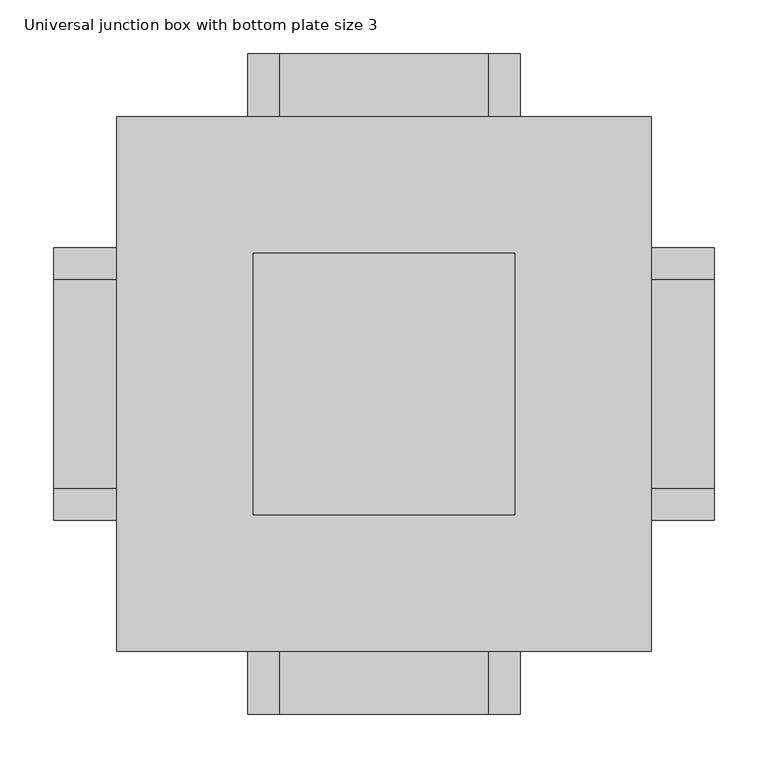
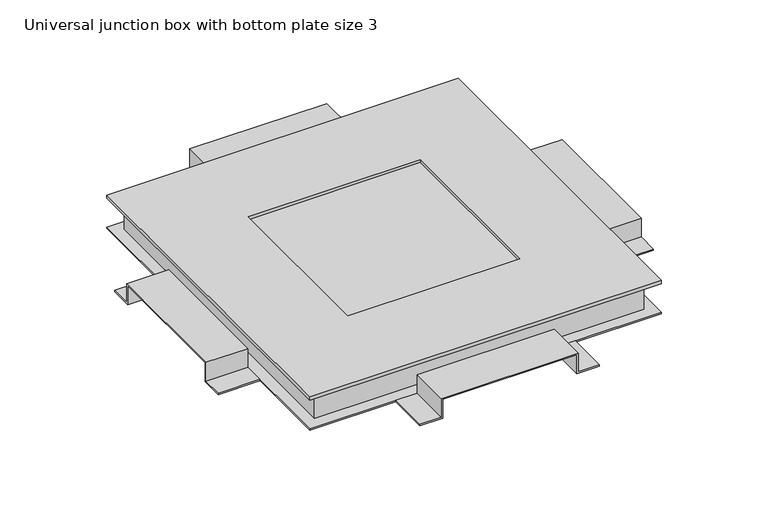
"""IFC4 building model written with IfcOpenShell, lengths in millimetres: cable carrier fitting geometry, Electrical-Installations_Hager_Universal-Junction-Box-With-Bottom-Plate-Size-3 : Universal junction box with bottom plate size 3."""

from ifc_helpers import new_model, si_unit, frame, origin, place, context, project, spatial, polyline, outline, extrude, faceted_brep, source, transform, mapped, element, save


def universal_junction_box_with_bottom_plate_size_3_bfdb4a76(model_context):
    return source(origin(), model_context, "Body", "SolidModel", [
        extrude(outline(polyline([(-14.0, -127.0), (-14.0, -95.0), (14.0, -95.0), (14.0, 95.0), (-14.0, 95.0), (-14.0, 127.0), (-12.0, 127.0), (-12.0, 97.0), (16.0, 97.0), (16.0, -97.0), (-12.0, -97.0), (-12.0, -127.0), (-14.0, -127.0)])), frame((0.0, 249.0, 0.0), z_axis=(0.0, 1.0, 0.0), x_axis=(0.0, 0.0, 1.0)), (0.0, 0.0, 1.0), 59.0),
        extrude(outline(polyline([(-127.0, -14.0), (-127.0, -12.0), (-97.0, -12.0), (-97.0, 16.0), (97.0, 16.0), (97.0, -12.0), (127.0, -12.0), (127.0, -14.0), (95.0, -14.0), (95.0, 14.0), (-95.0, 14.0), (-95.0, -14.0), (-127.0, -14.0)])), frame((-308.0, 0.0, 0.0), z_axis=(1.0, 0.0, 0.0), x_axis=(0.0, 1.0, 0.0)), (0.0, 0.0, 1.0), 59.0),
        extrude(outline(polyline([(-14.0, -127.0), (-14.0, -95.0), (14.0, -95.0), (14.0, 95.0), (-14.0, 95.0), (-14.0, 127.0), (-12.0, 127.0), (-12.0, 97.0), (16.0, 97.0), (16.0, -97.0), (-12.0, -97.0), (-12.0, -127.0), (-14.0, -127.0)])), frame((0.0, -308.0, 0.0), z_axis=(0.0, 1.0, 0.0), x_axis=(0.0, 0.0, 1.0)), (0.0, 0.0, 1.0), 59.0),
        extrude(outline(polyline([(-127.0, -14.0), (-127.0, -12.0), (-97.0, -12.0), (-97.0, 16.0), (97.0, 16.0), (97.0, -12.0), (127.0, -12.0), (127.0, -14.0), (95.0, -14.0), (95.0, 14.0), (-95.0, 14.0), (-95.0, -14.0), (-127.0, -14.0)])), frame((249.0, 0.0, 0.0), z_axis=(1.0, 0.0, 0.0), x_axis=(0.0, 1.0, 0.0)), (0.0, 0.0, 1.0), 59.0),
        faceted_brep([(-249.0, -249.0, 36.0), (249.0, -249.0, 36.0), (249.0, 249.0, 36.0), (-249.0, 249.0, 36.0), (-122.0, 122.0, 36.0), (122.0, 122.0, 36.0), (122.0, -122.0, 36.0), (-122.0, -122.0, 36.0), (-249.0, -249.0, 31.0), (-249.0, 249.0, 31.0), (249.0, 249.0, 31.0), (249.0, -249.0, 31.0), (227.0, 227.0, 31.0), (-227.0, 227.0, 31.0), (-227.0, -227.0, 31.0), (227.0, -227.0, 31.0), (-122.0, 122.0, 31.7820613), (122.0, 122.0, 31.7820613), (122.0, -122.0, 31.7820613), (-122.0, -122.0, 31.7820613), (227.0, 227.0, 31.7820613), (227.0, -227.0, 31.7820613), (-227.0, -227.0, 31.7820613), (-227.0, 227.0, 31.7820613)], [[[0, 1, 2, 3], [4, 5, 6, 7]], [[8, 9, 10, 11], [12, 13, 14, 15]], [[1, 0, 8, 11]], [[2, 1, 11, 10]], [[3, 2, 10, 9]], [[0, 3, 9, 8]], [[5, 4, 16, 17]], [[6, 5, 17, 18]], [[7, 6, 18, 19]], [[4, 7, 19, 16]], [[20, 21, 22, 23], [17, 16, 19, 18]], [[20, 23, 13, 12]], [[23, 22, 14, 13]], [[22, 21, 15, 14]], [[21, 20, 12, 15]]]),
        extrude(outline(polyline([(249.0, 249.0), (249.0, -249.0), (-249.0, -249.0), (-249.0, 249.0), (249.0, 249.0)])), frame((0.0, 0.0, -14.0), z_axis=(0.0, 0.0, 1.0), x_axis=(1.0, 0.0, 0.0)), (0.0, 0.0, 1.0), 2.0),
        faceted_brep([(-233.0, 233.0, 31.0), (-233.0, -233.0, 31.0), (233.0, -233.0, 31.0), (233.0, 233.0, 31.0), (-227.0, 227.0, 31.0), (227.0, 227.0, 31.0), (227.0, -227.0, 31.0), (-227.0, -227.0, 31.0), (-233.0, 233.0, -14.0), (233.0, 233.0, -14.0), (233.0, -233.0, -14.0), (-233.0, -233.0, -14.0), (227.0, 227.0, -6.1362798), (-227.0, 227.0, -6.1362798), (-227.0, -227.0, -6.1362798), (227.0, -227.0, -6.1362798)], [[[0, 1, 2, 3], [4, 5, 6, 7]], [[8, 9, 10, 11]], [[1, 0, 8, 11]], [[2, 1, 11, 10]], [[3, 2, 10, 9]], [[0, 3, 9, 8]], [[12, 13, 14, 15]], [[13, 12, 5, 4]], [[14, 13, 4, 7]], [[15, 14, 7, 6]], [[12, 15, 6, 5]]]),
    ])


if __name__ == "__main__":
    model = new_model("IFC4")
    model_context = context("Model", 3, world=origin())
    ifc_project = project(units=[si_unit("LENGTHUNIT", "METRE", prefix="MILLI")], contexts=[model_context])
    site = spatial("IfcSite", under=ifc_project)
    building = spatial("IfcBuilding", under=site)
    placement = place(None, origin())
    universal_junction_box_with_bottom_plate_size_3_shape = universal_junction_box_with_bottom_plate_size_3_bfdb4a76(model_context)
    element("IfcCableCarrierFitting", 1, ObjectType="Electrical-Installations_Hager_Universal-Junction-Box-With-Bottom-Plate-Size-3 : Universal junction box with bottom plate size 3", at=placement, inside=building, context=model_context, shape_type="MappedRepresentation", body=[
        mapped(universal_junction_box_with_bottom_plate_size_3_shape, transform((0.0, 0.0, 0.0), x_axis=(1.0, 0.0, 0.0), y_axis=(0.0, 1.0, 0.0), z_axis=(0.0, 0.0, 1.0))),
    ])
    save(model, "model.ifc")
